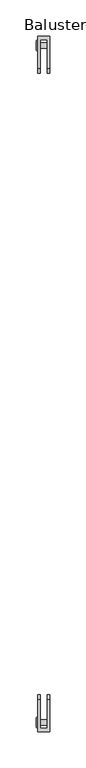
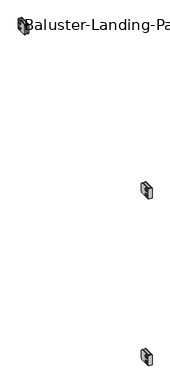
"""IFC4 building model written with IfcOpenShell, lengths in millimetres: railing geometry, Baluster-Landing-Panel-VIVA-BEACON-Upper : Standard_Glass."""

from ifc_helpers import new_model, si_unit, point, frame, origin, place, context, project, spatial, polyline, circle_curve, ellipse_curve, trimmed, outline, extrude, source, transform, mapped, element, save
from ifc_brep_helpers import plane_surface, cylinder_surface, revolved_surface, advanced_brep


def baluster_landing_panel_viva_beacon_upper_standard_glass_f7c4560a(model_context):
    return source(origin(), model_context, "Body", "SolidModel", [
        extrude(outline(polyline([(-922.7337279, 970.111725), (-920.6867638, 973.6571709), (-916.5928355, 973.6571709), (-914.5458713, 970.111725), (-916.5928355, 966.5662791), (-920.6867638, 966.5662791), (-922.7337279, 970.111725)])), frame((26.0686477, 0.0, 0.0), z_axis=(1.0, 0.0, 0.0), x_axis=(0.0, 1.0, 0.0)), (0.0, 0.0, 1.0), 1.4969696),
        advanced_brep(
        [(41.1327292, -922.1852455, 970.111725), (28.4327292, -922.1852455, 970.111725), (28.4327292, -915.0943537, 970.111725), (41.1327292, -915.0943537, 970.111725), (28.4327292, -926.0475887, 970.111725), (28.4327292, -911.2320105, 970.111725), (27.5656173, -920.295875, 970.111725), (41.1327292, -920.295875, 970.111725), (41.1327292, -916.9837242, 970.111725), (27.5656173, -916.9837242, 970.111725), (27.5978844, -926.0475887, 970.111725), (26.3166123, -924.7663167, 970.111725), (26.3166123, -912.5132826, 970.111725), (27.5978844, -911.2320105, 970.111725), (26.3166123, -922.9383952, 970.111725), (26.3166123, -914.3412041, 970.111725), (27.5656173, -922.9383952, 970.111725), (27.5656173, -914.3412041, 970.111725)],
        [
            (0, 1),
            (1, 2, circle_curve(frame((28.4327292, -918.6397996, 970.111725), z_axis=(1.0, 0.0, 0.0), x_axis=(0.0, 1.0, 0.0)), 3.5454459)),
            (2, 3),
            (3, 0, circle_curve(frame((41.1327292, -918.6397996, 970.111725), z_axis=(-1.0, 0.0, 0.0), x_axis=(0.0, 1.0, 0.0)), 3.5454459)),
            (2, 1, circle_curve(frame((28.4327292, -918.6397996, 970.111725), z_axis=(1.0, 0.0, 0.0), x_axis=(0.0, 1.0, 0.0)), 3.5454459)),
            (0, 3, circle_curve(frame((41.1327292, -918.6397996, 970.111725), z_axis=(-1.0, 0.0, 0.0), x_axis=(0.0, 1.0, 0.0)), 3.5454459)),
            (1, 4),
            (4, 5, circle_curve(frame((28.4327292, -918.6397996, 970.111725), z_axis=(1.0, 0.0, 0.0), x_axis=(0.0, 1.0, 0.0)), 7.4077891)),
            (5, 2),
            (5, 4, circle_curve(frame((28.4327292, -918.6397996, 970.111725), z_axis=(1.0, 0.0, 0.0), x_axis=(0.0, 1.0, 0.0)), 7.4077891)),
            (6, 7),
            (7, 8, circle_curve(frame((41.1327292, -918.6397996, 970.111725), z_axis=(1.0, 0.0, 0.0), x_axis=(0.0, 1.0, 0.0)), 1.6560754)),
            (8, 9),
            (9, 6, circle_curve(frame((27.5656173, -918.6397996, 970.111725), z_axis=(-1.0, 0.0, 0.0), x_axis=(0.0, 1.0, 0.0)), 1.6560754)),
            (8, 7, circle_curve(frame((41.1327292, -918.6397996, 970.111725), z_axis=(1.0, 0.0, 0.0), x_axis=(0.0, 1.0, 0.0)), 1.6560754)),
            (6, 9, circle_curve(frame((27.5656173, -918.6397996, 970.111725), z_axis=(-1.0, 0.0, 0.0), x_axis=(0.0, 1.0, 0.0)), 1.6560754)),
            (10, 11, circle_curve(frame((27.5978844, -924.7663167, 970.111725), z_axis=(0.0, 0.0, -1.0), x_axis=(0.0, -1.0, 0.0)), 1.281272)),
            (11, 12, circle_curve(frame((26.3166123, -918.6397996, 970.111725), z_axis=(1.0, 0.0, 0.0), x_axis=(0.0, 1.0, 0.0)), 6.1265171)),
            (12, 13, circle_curve(frame((27.5978844, -912.5132826, 970.111725), z_axis=(0.0, 0.0, -1.0), x_axis=(0.0, 1.0, 0.0)), 1.281272)),
            (13, 10, circle_curve(frame((27.5978844, -918.6397996, 970.111725), z_axis=(-1.0, 0.0, 0.0), x_axis=(0.0, 1.0, 0.0)), 7.4077891)),
            (12, 11, circle_curve(frame((26.3166123, -918.6397996, 970.111725), z_axis=(1.0, 0.0, 0.0), x_axis=(0.0, 1.0, 0.0)), 6.1265171)),
            (10, 13, circle_curve(frame((27.5978844, -918.6397996, 970.111725), z_axis=(-1.0, 0.0, 0.0), x_axis=(0.0, 1.0, 0.0)), 7.4077891)),
            (11, 14),
            (14, 15, circle_curve(frame((26.3166123, -918.6397996, 970.111725), z_axis=(1.0, 0.0, 0.0), x_axis=(0.0, 1.0, 0.0)), 4.2985955)),
            (15, 12),
            (15, 14, circle_curve(frame((26.3166123, -918.6397996, 970.111725), z_axis=(1.0, 0.0, 0.0), x_axis=(0.0, 1.0, 0.0)), 4.2985955)),
            (4, 10),
            (13, 5),
            (7, 0),
            (3, 8),
            (14, 16),
            (16, 17, circle_curve(frame((27.5656173, -918.6397996, 970.111725), z_axis=(1.0, 0.0, 0.0), x_axis=(0.0, 1.0, 0.0)), 4.2985955)),
            (17, 15),
            (17, 16, circle_curve(frame((27.5656173, -918.6397996, 970.111725), z_axis=(1.0, 0.0, 0.0), x_axis=(0.0, 1.0, 0.0)), 4.2985955)),
            (16, 6),
            (9, 17),
        ],
        [
            cylinder_surface(frame((31.9294623, -918.6397996, 970.111725), z_axis=(1.0, 0.0, 0.0), x_axis=(0.0, 1.0, 0.0)), 3.5454459),
            plane_surface(frame((28.4327292, -918.6397996, 970.111725), z_axis=(1.0, 0.0, 0.0), x_axis=(0.0, 1.0, 0.0))),
            revolved_surface(polyline([(41.1327292, -916.9837242, 970.111725), (27.5656173, -916.9837242, 970.111725)]), (31.9294623, -918.6397996, 970.111725), (1.0, 0.0, 0.0)),
            revolved_surface(trimmed(ellipse_curve(frame((27.5978844, -912.5132826, 970.111725), z_axis=(0.0, 0.0, -1.0), x_axis=(0.0, 1.0, 0.0)), 1.281272, 1.281272), [point((26.3166123, -912.5132826, 970.111725))], [point((27.5978844, -911.2320105, 970.111725))], True, "CARTESIAN"), (31.9294623, -918.6397996, 970.111725), (1.0, 0.0, 0.0)),
            plane_surface(frame((26.3166123, -918.6397996, 970.111725), z_axis=(-1.0, 0.0, 0.0), x_axis=(0.0, 1.0, 0.0))),
            cylinder_surface(frame((31.9294623, -918.6397996, 970.111725), z_axis=(1.0, 0.0, 0.0), x_axis=(0.0, 1.0, 0.0)), 7.4077891),
            plane_surface(frame((41.1327292, -918.6397996, 970.111725), z_axis=(1.0, 0.0, 0.0), x_axis=(0.0, 1.0, 0.0))),
            revolved_surface(polyline([(27.5656173, -914.3412040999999, 970.111725), (26.3166123, -914.3412040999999, 970.111725)]), (31.9294623, -918.6397996, 970.111725), (1.0, 0.0, 0.0)),
            plane_surface(frame((27.5656173, -918.6397996, 970.111725), z_axis=(-1.0, 0.0, 0.0), x_axis=(0.0, 1.0, 0.0))),
        ],
        [
            (0, [[1, 2, 3, 4]]),
            (0, [[-3, 5, -1, 6]]),
            (1, [[7, 8, 9, -2]]),
            (1, [[-9, 10, -7, -5]]),
            (2, [[11, 12, 13, 14]]),
            (2, [[-13, 15, -11, 16]]),
            (3, [[17, 18, 19, 20]]),
            (3, [[-19, 21, -17, 22]]),
            (4, [[23, 24, 25, -18]]),
            (4, [[-25, 26, -23, -21]]),
            (5, [[27, -20, 28, -8]]),
            (5, [[-28, -22, -27, -10]]),
            (6, [[29, -4, 30, -12]]),
            (6, [[-30, -6, -29, -15]]),
            (7, [[31, 32, 33, -24]]),
            (7, [[-33, 34, -31, -26]]),
            (8, [[35, -14, 36, -32]]),
            (8, [[-36, -16, -35, -34]]),
        ],
    ),
        advanced_brep(
        [(41.1327292, -922.1852455, 945.505475), (28.4327292, -922.1852455, 945.505475), (28.4327292, -915.0943537, 945.505475), (41.1327292, -915.0943537, 945.505475), (28.4327292, -926.0475887, 945.505475), (28.4327292, -911.2320105, 945.505475), (27.5656173, -920.295875, 945.505475), (41.1327292, -920.295875, 945.505475), (41.1327292, -916.9837242, 945.505475), (27.5656173, -916.9837242, 945.505475), (27.5978844, -926.0475887, 945.505475), (26.3166123, -924.7663167, 945.505475), (26.3166123, -912.5132826, 945.505475), (27.5978844, -911.2320105, 945.505475), (26.3166123, -922.9383952, 945.505475), (26.3166123, -914.3412041, 945.505475), (27.5656173, -922.9383952, 945.505475), (27.5656173, -914.3412041, 945.505475)],
        [
            (0, 1),
            (1, 2, circle_curve(frame((28.4327292, -918.6397996, 945.505475), z_axis=(1.0, 0.0, 0.0), x_axis=(0.0, 1.0, 0.0)), 3.5454459)),
            (2, 3),
            (3, 0, circle_curve(frame((41.1327292, -918.6397996, 945.505475), z_axis=(-1.0, 0.0, 0.0), x_axis=(0.0, 1.0, 0.0)), 3.5454459)),
            (2, 1, circle_curve(frame((28.4327292, -918.6397996, 945.505475), z_axis=(1.0, 0.0, 0.0), x_axis=(0.0, 1.0, 0.0)), 3.5454459)),
            (0, 3, circle_curve(frame((41.1327292, -918.6397996, 945.505475), z_axis=(-1.0, 0.0, 0.0), x_axis=(0.0, 1.0, 0.0)), 3.5454459)),
            (1, 4),
            (4, 5, circle_curve(frame((28.4327292, -918.6397996, 945.505475), z_axis=(1.0, 0.0, 0.0), x_axis=(0.0, 1.0, 0.0)), 7.4077891)),
            (5, 2),
            (5, 4, circle_curve(frame((28.4327292, -918.6397996, 945.505475), z_axis=(1.0, 0.0, 0.0), x_axis=(0.0, 1.0, 0.0)), 7.4077891)),
            (6, 7),
            (7, 8, circle_curve(frame((41.1327292, -918.6397996, 945.505475), z_axis=(1.0, 0.0, 0.0), x_axis=(0.0, 1.0, 0.0)), 1.6560754)),
            (8, 9),
            (9, 6, circle_curve(frame((27.5656173, -918.6397996, 945.505475), z_axis=(-1.0, 0.0, 0.0), x_axis=(0.0, 1.0, 0.0)), 1.6560754)),
            (8, 7, circle_curve(frame((41.1327292, -918.6397996, 945.505475), z_axis=(1.0, 0.0, 0.0), x_axis=(0.0, 1.0, 0.0)), 1.6560754)),
            (6, 9, circle_curve(frame((27.5656173, -918.6397996, 945.505475), z_axis=(-1.0, 0.0, 0.0), x_axis=(0.0, 1.0, 0.0)), 1.6560754)),
            (10, 11, circle_curve(frame((27.5978844, -924.7663167, 945.505475), z_axis=(0.0, 0.0, -1.0), x_axis=(0.0, -1.0, 0.0)), 1.281272)),
            (11, 12, circle_curve(frame((26.3166123, -918.6397996, 945.505475), z_axis=(1.0, 0.0, 0.0), x_axis=(0.0, 1.0, 0.0)), 6.1265171)),
            (12, 13, circle_curve(frame((27.5978844, -912.5132826, 945.505475), z_axis=(0.0, 0.0, -1.0), x_axis=(0.0, 1.0, 0.0)), 1.281272)),
            (13, 10, circle_curve(frame((27.5978844, -918.6397996, 945.505475), z_axis=(-1.0, 0.0, 0.0), x_axis=(0.0, 1.0, 0.0)), 7.4077891)),
            (12, 11, circle_curve(frame((26.3166123, -918.6397996, 945.505475), z_axis=(1.0, 0.0, 0.0), x_axis=(0.0, 1.0, 0.0)), 6.1265171)),
            (10, 13, circle_curve(frame((27.5978844, -918.6397996, 945.505475), z_axis=(-1.0, 0.0, 0.0), x_axis=(0.0, 1.0, 0.0)), 7.4077891)),
            (11, 14),
            (14, 15, circle_curve(frame((26.3166123, -918.6397996, 945.505475), z_axis=(1.0, 0.0, 0.0), x_axis=(0.0, 1.0, 0.0)), 4.2985955)),
            (15, 12),
            (15, 14, circle_curve(frame((26.3166123, -918.6397996, 945.505475), z_axis=(1.0, 0.0, 0.0), x_axis=(0.0, 1.0, 0.0)), 4.2985955)),
            (7, 0),
            (3, 8),
            (4, 10),
            (13, 5),
            (14, 16),
            (16, 17, circle_curve(frame((27.5656173, -918.6397996, 945.505475), z_axis=(1.0, 0.0, 0.0), x_axis=(0.0, 1.0, 0.0)), 4.2985955)),
            (17, 15),
            (17, 16, circle_curve(frame((27.5656173, -918.6397996, 945.505475), z_axis=(1.0, 0.0, 0.0), x_axis=(0.0, 1.0, 0.0)), 4.2985955)),
            (16, 6),
            (9, 17),
        ],
        [
            cylinder_surface(frame((31.9294623, -918.6397996, 945.505475), z_axis=(1.0, 0.0, 0.0), x_axis=(0.0, 1.0, 0.0)), 3.5454459),
            plane_surface(frame((28.4327292, -918.6397996, 945.505475), z_axis=(1.0, 0.0, 0.0), x_axis=(0.0, 1.0, 0.0))),
            revolved_surface(polyline([(41.1327292, -916.9837242, 945.505475), (27.5656173, -916.9837242, 945.505475)]), (31.9294623, -918.6397996, 945.505475), (1.0, 0.0, 0.0)),
            revolved_surface(trimmed(ellipse_curve(frame((27.5978844, -912.5132826, 945.505475), z_axis=(0.0, 0.0, -1.0), x_axis=(0.0, 1.0, 0.0)), 1.281272, 1.281272), [point((26.3166123, -912.5132826, 945.505475))], [point((27.5978844, -911.2320105, 945.505475))], True, "CARTESIAN"), (31.9294623, -918.6397996, 945.505475), (1.0, 0.0, 0.0)),
            plane_surface(frame((26.3166123, -918.6397996, 945.505475), z_axis=(-1.0, 0.0, 0.0), x_axis=(0.0, 1.0, 0.0))),
            plane_surface(frame((41.1327292, -918.6397996, 945.505475), z_axis=(1.0, 0.0, 0.0), x_axis=(0.0, 1.0, 0.0))),
            cylinder_surface(frame((31.9294623, -918.6397996, 945.505475), z_axis=(1.0, 0.0, 0.0), x_axis=(0.0, 1.0, 0.0)), 7.4077891),
            revolved_surface(polyline([(27.5656173, -914.3412040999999, 945.505475), (26.3166123, -914.3412040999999, 945.505475)]), (31.9294623, -918.6397996, 945.505475), (1.0, 0.0, 0.0)),
            plane_surface(frame((27.5656173, -918.6397996, 945.505475), z_axis=(-1.0, 0.0, 0.0), x_axis=(0.0, 1.0, 0.0))),
        ],
        [
            (0, [[1, 2, 3, 4]]),
            (0, [[-3, 5, -1, 6]]),
            (1, [[7, 8, 9, -2]]),
            (1, [[-9, 10, -7, -5]]),
            (2, [[11, 12, 13, 14]]),
            (2, [[-13, 15, -11, 16]]),
            (3, [[17, 18, 19, 20]]),
            (3, [[-19, 21, -17, 22]]),
            (4, [[23, 24, 25, -18]]),
            (4, [[-25, 26, -23, -21]]),
            (5, [[27, -4, 28, -12]]),
            (5, [[-28, -6, -27, -15]]),
            (6, [[29, -20, 30, -8]]),
            (6, [[-30, -22, -29, -10]]),
            (7, [[31, 32, 33, -24]]),
            (7, [[-33, 34, -31, -26]]),
            (8, [[35, -14, 36, -32]]),
            (8, [[-36, -16, -35, -34]]),
        ],
    ),
        extrude(outline(polyline([(-922.7337279, 945.505475), (-920.6867638, 949.0509209), (-916.5928355, 949.0509209), (-914.5458713, 945.505475), (-916.5928355, 941.9600291), (-920.6867638, 941.9600291), (-922.7337279, 945.505475)])), frame((26.0686477, 0.0, 0.0), z_axis=(1.0, 0.0, 0.0), x_axis=(0.0, 1.0, 0.0)), (0.0, 0.0, 1.0), 1.4969696),
        advanced_brep(
        [(28.4327292, -931.2731444, 980.0336), (28.4327292, -886.8231444, 980.0336), (28.4327292, -880.4731444, 973.6836), (28.4327292, -880.4731444, 941.9336), (28.4327292, -886.8231444, 935.5836), (28.4327292, -931.2731444, 935.5836), (44.3077292, -931.2731444, 980.0336), (44.3077292, -931.2731444, 935.5836), (44.3077292, -886.8231444, 935.5836), (44.3077292, -880.4731444, 941.9336), (44.3077292, -880.4731444, 973.6836), (44.3077292, -886.8231444, 980.0336), (31.6077292, -886.8231444, 935.5836), (31.6077292, -926.555064, 935.5836), (41.1327292, -926.555064, 935.5836), (41.1327292, -886.8231444, 935.5836), (31.6077292, -926.555064, 980.0336), (41.1327292, -926.555064, 980.0336), (31.6077292, -880.4731444, 941.9336), (31.6077292, -880.4731444, 973.6836), (31.6077292, -886.8231444, 980.0336), (41.1327292, -886.8231444, 980.0336), (41.1327292, -880.4731444, 973.6836), (41.1327292, -880.4731444, 941.9336)],
        [
            (0, 1),
            (1, 2, circle_curve(frame((28.4327292, -886.8231444, 973.6836), z_axis=(-1.0, 0.0, 0.0), x_axis=(0.0, 1.0, 0.0)), 6.35)),
            (2, 3),
            (3, 4, circle_curve(frame((28.4327292, -886.8231444, 941.9336), z_axis=(-1.0, 0.0, 0.0), x_axis=(0.0, 1.0, 0.0)), 6.35)),
            (4, 5),
            (5, 0),
            (6, 7),
            (7, 8),
            (8, 9, circle_curve(frame((44.3077292, -886.8231444, 941.9336), z_axis=(1.0, 0.0, 0.0), x_axis=(0.0, 1.0, 0.0)), 6.35)),
            (9, 10),
            (10, 11, circle_curve(frame((44.3077292, -886.8231444, 973.6836), z_axis=(1.0, 0.0, 0.0), x_axis=(0.0, 1.0, 0.0)), 6.35)),
            (11, 6),
            (5, 7),
            (6, 0),
            (4, 12),
            (12, 13),
            (13, 14),
            (14, 15),
            (15, 8),
            (13, 16),
            (16, 17),
            (17, 14),
            (12, 18, circle_curve(frame((31.6077292, -886.8231444, 941.9336), z_axis=(1.0, 0.0, 0.0), x_axis=(0.0, 1.0, 0.0)), 6.35)),
            (18, 19),
            (19, 20, circle_curve(frame((31.6077292, -886.8231444, 973.6836), z_axis=(1.0, 0.0, 0.0), x_axis=(0.0, 1.0, 0.0)), 6.35)),
            (20, 16),
            (17, 21),
            (21, 22, circle_curve(frame((41.1327292, -886.8231444, 973.6836), z_axis=(-1.0, 0.0, 0.0), x_axis=(0.0, 1.0, 0.0)), 6.35)),
            (22, 23),
            (23, 15, circle_curve(frame((41.1327292, -886.8231444, 941.9336), z_axis=(-1.0, 0.0, 0.0), x_axis=(0.0, 1.0, 0.0)), 6.35)),
            (23, 9),
            (3, 18),
            (22, 10),
            (2, 19),
            (21, 11),
            (1, 20),
        ],
        [
            plane_surface(frame((28.4327292, -931.2731444, 935.5836), z_axis=(-1.0, 0.0, 0.0), x_axis=(0.0, 0.0, -1.0))),
            plane_surface(frame((44.3077292, -931.2731444, 935.5836), z_axis=(1.0, 0.0, 0.0), x_axis=(0.0, 0.0, 1.0))),
            plane_surface(frame((28.4327292, -931.2731444, 980.0336), z_axis=(0.0, -1.0, 0.0), x_axis=(1.0, 0.0, 0.0))),
            plane_surface(frame((28.4327292, -931.2731444, 935.5836), z_axis=(0.0, 0.0, -1.0), x_axis=(1.0, 0.0, 0.0))),
            plane_surface(frame((41.1327292, -926.555064, 992.7336), z_axis=(0.0, 1.0, 0.0), x_axis=(0.0, 0.0, -1.0))),
            plane_surface(frame((31.6077292, -926.555064, 992.7336), z_axis=(1.0, 0.0, 0.0), x_axis=(0.0, 0.0, -1.0))),
            plane_surface(frame((41.1327292, -867.7731444, 992.7336), z_axis=(-1.0, 0.0, 0.0), x_axis=(0.0, 0.0, -1.0))),
            cylinder_surface(frame((44.3077292, -886.8231444, 941.9336), z_axis=(-1.0, 0.0, 0.0), x_axis=(0.0, 1.0, 0.0)), 6.35),
            plane_surface(frame((28.4327292, -880.4731444, 941.9336), z_axis=(0.0, 1.0, 0.0), x_axis=(1.0, 0.0, 0.0))),
            cylinder_surface(frame((44.3077292, -886.8231444, 973.6836), z_axis=(-1.0, 0.0, 0.0), x_axis=(0.0, 1.0, 0.0)), 6.35),
            plane_surface(frame((28.4327292, -886.8231444, 980.0336), z_axis=(0.0, 0.0, 1.0), x_axis=(1.0, 0.0, 0.0))),
        ],
        [
            (0, [[1, 2, 3, 4, 5, 6]]),
            (1, [[7, 8, 9, 10, 11, 12]]),
            (2, [[13, -7, 14, -6]]),
            (3, [[15, 16, 17, 18, 19, -8, -13, -5]]),
            (4, [[-17, 20, 21, 22]]),
            (5, [[-16, 23, 24, 25, 26, -20]]),
            (6, [[27, 28, 29, 30, -18, -22]]),
            (7, [[-19, -30, 31, -9]]),
            (7, [[32, -23, -15, -4]]),
            (8, [[-31, -29, 33, -10]]),
            (8, [[34, -24, -32, -3]]),
            (9, [[-33, -28, 35, -11]]),
            (9, [[36, -25, -34, -2]]),
            (10, [[-14, -12, -35, -27, -21, -26, -36, -1]]),
        ],
    ),
        extrude(outline(polyline([(-922.7337279, 220.73255), (-920.6867638, 224.2779959), (-916.5928355, 224.2779959), (-914.5458713, 220.73255), (-916.5928355, 217.1871041), (-920.6867638, 217.1871041), (-922.7337279, 220.73255)])), frame((26.0686477, 0.0, 0.0), z_axis=(1.0, 0.0, 0.0), x_axis=(0.0, 1.0, 0.0)), (0.0, 0.0, 1.0), 1.4969696),
        advanced_brep(
        [(41.1327292, -922.1852455, 220.73255), (28.4327292, -922.1852455, 220.73255), (28.4327292, -915.0943537, 220.73255), (41.1327292, -915.0943537, 220.73255), (28.4327292, -926.0475887, 220.73255), (28.4327292, -911.2320105, 220.73255), (27.5656173, -920.295875, 220.73255), (41.1327292, -920.295875, 220.73255), (41.1327292, -916.9837242, 220.73255), (27.5656173, -916.9837242, 220.73255), (27.5978844, -926.0475887, 220.73255), (26.3166123, -924.7663167, 220.73255), (26.3166123, -912.5132826, 220.73255), (27.5978844, -911.2320105, 220.73255), (26.3166123, -922.9383952, 220.73255), (26.3166123, -914.3412041, 220.73255), (27.5656173, -922.9383952, 220.73255), (27.5656173, -914.3412041, 220.73255)],
        [
            (0, 1),
            (1, 2, circle_curve(frame((28.4327292, -918.6397996, 220.73255), z_axis=(1.0, 0.0, 0.0), x_axis=(0.0, 1.0, 0.0)), 3.5454459)),
            (2, 3),
            (3, 0, circle_curve(frame((41.1327292, -918.6397996, 220.73255), z_axis=(-1.0, 0.0, 0.0), x_axis=(0.0, 1.0, 0.0)), 3.5454459)),
            (2, 1, circle_curve(frame((28.4327292, -918.6397996, 220.73255), z_axis=(1.0, 0.0, 0.0), x_axis=(0.0, 1.0, 0.0)), 3.5454459)),
            (0, 3, circle_curve(frame((41.1327292, -918.6397996, 220.73255), z_axis=(-1.0, 0.0, 0.0), x_axis=(0.0, 1.0, 0.0)), 3.5454459)),
            (1, 4),
            (4, 5, circle_curve(frame((28.4327292, -918.6397996, 220.73255), z_axis=(1.0, 0.0, 0.0), x_axis=(0.0, 1.0, 0.0)), 7.4077891)),
            (5, 2),
            (5, 4, circle_curve(frame((28.4327292, -918.6397996, 220.73255), z_axis=(1.0, 0.0, 0.0), x_axis=(0.0, 1.0, 0.0)), 7.4077891)),
            (6, 7),
            (7, 8, circle_curve(frame((41.1327292, -918.6397996, 220.73255), z_axis=(1.0, 0.0, 0.0), x_axis=(0.0, 1.0, 0.0)), 1.6560754)),
            (8, 9),
            (9, 6, circle_curve(frame((27.5656173, -918.6397996, 220.73255), z_axis=(-1.0, 0.0, 0.0), x_axis=(0.0, 1.0, 0.0)), 1.6560754)),
            (8, 7, circle_curve(frame((41.1327292, -918.6397996, 220.73255), z_axis=(1.0, 0.0, 0.0), x_axis=(0.0, 1.0, 0.0)), 1.6560754)),
            (6, 9, circle_curve(frame((27.5656173, -918.6397996, 220.73255), z_axis=(-1.0, 0.0, 0.0), x_axis=(0.0, 1.0, 0.0)), 1.6560754)),
            (10, 11, circle_curve(frame((27.5978844, -924.7663167, 220.73255), z_axis=(0.0, 0.0, -1.0), x_axis=(0.0, -1.0, 0.0)), 1.281272)),
            (11, 12, circle_curve(frame((26.3166123, -918.6397996, 220.73255), z_axis=(1.0, 0.0, 0.0), x_axis=(0.0, 1.0, 0.0)), 6.1265171)),
            (12, 13, circle_curve(frame((27.5978844, -912.5132826, 220.73255), z_axis=(0.0, 0.0, -1.0), x_axis=(0.0, 1.0, 0.0)), 1.281272)),
            (13, 10, circle_curve(frame((27.5978844, -918.6397996, 220.73255), z_axis=(-1.0, 0.0, 0.0), x_axis=(0.0, 1.0, 0.0)), 7.4077891)),
            (12, 11, circle_curve(frame((26.3166123, -918.6397996, 220.73255), z_axis=(1.0, 0.0, 0.0), x_axis=(0.0, 1.0, 0.0)), 6.1265171)),
            (10, 13, circle_curve(frame((27.5978844, -918.6397996, 220.73255), z_axis=(-1.0, 0.0, 0.0), x_axis=(0.0, 1.0, 0.0)), 7.4077891)),
            (11, 14),
            (14, 15, circle_curve(frame((26.3166123, -918.6397996, 220.73255), z_axis=(1.0, 0.0, 0.0), x_axis=(0.0, 1.0, 0.0)), 4.2985955)),
            (15, 12),
            (15, 14, circle_curve(frame((26.3166123, -918.6397996, 220.73255), z_axis=(1.0, 0.0, 0.0), x_axis=(0.0, 1.0, 0.0)), 4.2985955)),
            (4, 10),
            (13, 5),
            (7, 0),
            (3, 8),
            (14, 16),
            (16, 17, circle_curve(frame((27.5656173, -918.6397996, 220.73255), z_axis=(1.0, 0.0, 0.0), x_axis=(0.0, 1.0, 0.0)), 4.2985955)),
            (17, 15),
            (17, 16, circle_curve(frame((27.5656173, -918.6397996, 220.73255), z_axis=(1.0, 0.0, 0.0), x_axis=(0.0, 1.0, 0.0)), 4.2985955)),
            (16, 6),
            (9, 17),
        ],
        [
            cylinder_surface(frame((31.9294623, -918.6397996, 220.73255), z_axis=(1.0, 0.0, 0.0), x_axis=(0.0, 1.0, 0.0)), 3.5454459),
            plane_surface(frame((28.4327292, -918.6397996, 220.73255), z_axis=(1.0, 0.0, 0.0), x_axis=(0.0, 1.0, 0.0))),
            revolved_surface(polyline([(41.1327292, -916.9837242, 220.73255), (27.5656173, -916.9837242, 220.73255)]), (31.9294623, -918.6397996, 220.73255), (1.0, 0.0, 0.0)),
            revolved_surface(trimmed(ellipse_curve(frame((27.5978844, -912.5132826, 220.73255), z_axis=(0.0, 0.0, -1.0), x_axis=(0.0, 1.0, 0.0)), 1.281272, 1.281272), [point((26.3166123, -912.5132826, 220.73255))], [point((27.5978844, -911.2320105, 220.73255))], True, "CARTESIAN"), (31.9294623, -918.6397996, 220.73255), (1.0, 0.0, 0.0)),
            plane_surface(frame((26.3166123, -918.6397996, 220.73255), z_axis=(-1.0, 0.0, 0.0), x_axis=(0.0, 1.0, 0.0))),
            cylinder_surface(frame((31.9294623, -918.6397996, 220.73255), z_axis=(1.0, 0.0, 0.0), x_axis=(0.0, 1.0, 0.0)), 7.4077891),
            plane_surface(frame((41.1327292, -918.6397996, 220.73255), z_axis=(1.0, 0.0, 0.0), x_axis=(0.0, 1.0, 0.0))),
            revolved_surface(polyline([(27.5656173, -914.3412040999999, 220.73255), (26.3166123, -914.3412040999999, 220.73255)]), (31.9294623, -918.6397996, 220.73255), (1.0, 0.0, 0.0)),
            plane_surface(frame((27.5656173, -918.6397996, 220.73255), z_axis=(-1.0, 0.0, 0.0), x_axis=(0.0, 1.0, 0.0))),
        ],
        [
            (0, [[1, 2, 3, 4]]),
            (0, [[-3, 5, -1, 6]]),
            (1, [[7, 8, 9, -2]]),
            (1, [[-9, 10, -7, -5]]),
            (2, [[11, 12, 13, 14]]),
            (2, [[-13, 15, -11, 16]]),
            (3, [[17, 18, 19, 20]]),
            (3, [[-19, 21, -17, 22]]),
            (4, [[23, 24, 25, -18]]),
            (4, [[-25, 26, -23, -21]]),
            (5, [[27, -20, 28, -8]]),
            (5, [[-28, -22, -27, -10]]),
            (6, [[29, -4, 30, -12]]),
            (6, [[-30, -6, -29, -15]]),
            (7, [[31, 32, 33, -24]]),
            (7, [[-33, 34, -31, -26]]),
            (8, [[35, -14, 36, -32]]),
            (8, [[-36, -16, -35, -34]]),
        ],
    ),
        advanced_brep(
        [(41.1327292, -922.1852455, 196.1263), (28.4327292, -922.1852455, 196.1263), (28.4327292, -915.0943537, 196.1263), (41.1327292, -915.0943537, 196.1263), (28.4327292, -926.0475887, 196.1263), (28.4327292, -911.2320105, 196.1263), (27.5656173, -920.295875, 196.1263), (41.1327292, -920.295875, 196.1263), (41.1327292, -916.9837242, 196.1263), (27.5656173, -916.9837242, 196.1263), (27.5978844, -926.0475887, 196.1263), (26.3166123, -924.7663167, 196.1263), (26.3166123, -912.5132826, 196.1263), (27.5978844, -911.2320105, 196.1263), (26.3166123, -922.9383952, 196.1263), (26.3166123, -914.3412041, 196.1263), (27.5656173, -922.9383952, 196.1263), (27.5656173, -914.3412041, 196.1263)],
        [
            (0, 1),
            (1, 2, circle_curve(frame((28.4327292, -918.6397996, 196.1263), z_axis=(1.0, 0.0, 0.0), x_axis=(0.0, 1.0, 0.0)), 3.5454459)),
            (2, 3),
            (3, 0, circle_curve(frame((41.1327292, -918.6397996, 196.1263), z_axis=(-1.0, 0.0, 0.0), x_axis=(0.0, 1.0, 0.0)), 3.5454459)),
            (2, 1, circle_curve(frame((28.4327292, -918.6397996, 196.1263), z_axis=(1.0, 0.0, 0.0), x_axis=(0.0, 1.0, 0.0)), 3.5454459)),
            (0, 3, circle_curve(frame((41.1327292, -918.6397996, 196.1263), z_axis=(-1.0, 0.0, 0.0), x_axis=(0.0, 1.0, 0.0)), 3.5454459)),
            (1, 4),
            (4, 5, circle_curve(frame((28.4327292, -918.6397996, 196.1263), z_axis=(1.0, 0.0, 0.0), x_axis=(0.0, 1.0, 0.0)), 7.4077891)),
            (5, 2),
            (5, 4, circle_curve(frame((28.4327292, -918.6397996, 196.1263), z_axis=(1.0, 0.0, 0.0), x_axis=(0.0, 1.0, 0.0)), 7.4077891)),
            (6, 7),
            (7, 8, circle_curve(frame((41.1327292, -918.6397996, 196.1263), z_axis=(1.0, 0.0, 0.0), x_axis=(0.0, 1.0, 0.0)), 1.6560754)),
            (8, 9),
            (9, 6, circle_curve(frame((27.5656173, -918.6397996, 196.1263), z_axis=(-1.0, 0.0, 0.0), x_axis=(0.0, 1.0, 0.0)), 1.6560754)),
            (8, 7, circle_curve(frame((41.1327292, -918.6397996, 196.1263), z_axis=(1.0, 0.0, 0.0), x_axis=(0.0, 1.0, 0.0)), 1.6560754)),
            (6, 9, circle_curve(frame((27.5656173, -918.6397996, 196.1263), z_axis=(-1.0, 0.0, 0.0), x_axis=(0.0, 1.0, 0.0)), 1.6560754)),
            (10, 11, circle_curve(frame((27.5978844, -924.7663167, 196.1263), z_axis=(0.0, 0.0, -1.0), x_axis=(0.0, -1.0, 0.0)), 1.281272)),
            (11, 12, circle_curve(frame((26.3166123, -918.6397996, 196.1263), z_axis=(1.0, 0.0, 0.0), x_axis=(0.0, 1.0, 0.0)), 6.1265171)),
            (12, 13, circle_curve(frame((27.5978844, -912.5132826, 196.1263), z_axis=(0.0, 0.0, -1.0), x_axis=(0.0, 1.0, 0.0)), 1.281272)),
            (13, 10, circle_curve(frame((27.5978844, -918.6397996, 196.1263), z_axis=(-1.0, 0.0, 0.0), x_axis=(0.0, 1.0, 0.0)), 7.4077891)),
            (12, 11, circle_curve(frame((26.3166123, -918.6397996, 196.1263), z_axis=(1.0, 0.0, 0.0), x_axis=(0.0, 1.0, 0.0)), 6.1265171)),
            (10, 13, circle_curve(frame((27.5978844, -918.6397996, 196.1263), z_axis=(-1.0, 0.0, 0.0), x_axis=(0.0, 1.0, 0.0)), 7.4077891)),
            (11, 14),
            (14, 15, circle_curve(frame((26.3166123, -918.6397996, 196.1263), z_axis=(1.0, 0.0, 0.0), x_axis=(0.0, 1.0, 0.0)), 4.2985955)),
            (15, 12),
            (15, 14, circle_curve(frame((26.3166123, -918.6397996, 196.1263), z_axis=(1.0, 0.0, 0.0), x_axis=(0.0, 1.0, 0.0)), 4.2985955)),
            (7, 0),
            (3, 8),
            (4, 10),
            (13, 5),
            (14, 16),
            (16, 17, circle_curve(frame((27.5656173, -918.6397996, 196.1263), z_axis=(1.0, 0.0, 0.0), x_axis=(0.0, 1.0, 0.0)), 4.2985955)),
            (17, 15),
            (17, 16, circle_curve(frame((27.5656173, -918.6397996, 196.1263), z_axis=(1.0, 0.0, 0.0), x_axis=(0.0, 1.0, 0.0)), 4.2985955)),
            (16, 6),
            (9, 17),
        ],
        [
            cylinder_surface(frame((31.9294623, -918.6397996, 196.1263), z_axis=(1.0, 0.0, 0.0), x_axis=(0.0, 1.0, 0.0)), 3.5454459),
            plane_surface(frame((28.4327292, -918.6397996, 196.1263), z_axis=(1.0, 0.0, 0.0), x_axis=(0.0, 1.0, 0.0))),
            revolved_surface(polyline([(41.1327292, -916.9837242, 196.1263), (27.5656173, -916.9837242, 196.1263)]), (31.9294623, -918.6397996, 196.1263), (1.0, 0.0, 0.0)),
            revolved_surface(trimmed(ellipse_curve(frame((27.5978844, -912.5132826, 196.1263), z_axis=(0.0, 0.0, -1.0), x_axis=(0.0, 1.0, 0.0)), 1.281272, 1.281272), [point((26.3166123, -912.5132826, 196.1263))], [point((27.5978844, -911.2320105, 196.1263))], True, "CARTESIAN"), (31.9294623, -918.6397996, 196.1263), (1.0, 0.0, 0.0)),
            plane_surface(frame((26.3166123, -918.6397996, 196.1263), z_axis=(-1.0, 0.0, 0.0), x_axis=(0.0, 1.0, 0.0))),
            plane_surface(frame((41.1327292, -918.6397996, 196.1263), z_axis=(1.0, 0.0, 0.0), x_axis=(0.0, 1.0, 0.0))),
            cylinder_surface(frame((31.9294623, -918.6397996, 196.1263), z_axis=(1.0, 0.0, 0.0), x_axis=(0.0, 1.0, 0.0)), 7.4077891),
            revolved_surface(polyline([(27.5656173, -914.3412040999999, 196.1263), (26.3166123, -914.3412040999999, 196.1263)]), (31.9294623, -918.6397996, 196.1263), (1.0, 0.0, 0.0)),
            plane_surface(frame((27.5656173, -918.6397996, 196.1263), z_axis=(-1.0, 0.0, 0.0), x_axis=(0.0, 1.0, 0.0))),
        ],
        [
            (0, [[1, 2, 3, 4]]),
            (0, [[-3, 5, -1, 6]]),
            (1, [[7, 8, 9, -2]]),
            (1, [[-9, 10, -7, -5]]),
            (2, [[11, 12, 13, 14]]),
            (2, [[-13, 15, -11, 16]]),
            (3, [[17, 18, 19, 20]]),
            (3, [[-19, 21, -17, 22]]),
            (4, [[23, 24, 25, -18]]),
            (4, [[-25, 26, -23, -21]]),
            (5, [[27, -4, 28, -12]]),
            (5, [[-28, -6, -27, -15]]),
            (6, [[29, -20, 30, -8]]),
            (6, [[-30, -22, -29, -10]]),
            (7, [[31, 32, 33, -24]]),
            (7, [[-33, 34, -31, -26]]),
            (8, [[35, -14, 36, -32]]),
            (8, [[-36, -16, -35, -34]]),
        ],
    ),
        extrude(outline(polyline([(-922.7337279, 196.1263), (-920.6867638, 199.6717459), (-916.5928355, 199.6717459), (-914.5458713, 196.1263), (-916.5928355, 192.5808541), (-920.6867638, 192.5808541), (-922.7337279, 196.1263)])), frame((26.0686477, 0.0, 0.0), z_axis=(1.0, 0.0, 0.0), x_axis=(0.0, 1.0, 0.0)), (0.0, 0.0, 1.0), 1.4969696),
        advanced_brep(
        [(28.4327292, -931.2731444, 230.654425), (28.4327292, -886.8231444, 230.654425), (28.4327292, -880.4731444, 224.304425), (28.4327292, -880.4731444, 192.554425), (28.4327292, -886.8231444, 186.204425), (28.4327292, -931.2731444, 186.204425), (44.3077292, -931.2731444, 230.654425), (44.3077292, -931.2731444, 186.204425), (44.3077292, -886.8231444, 186.204425), (44.3077292, -880.4731444, 192.554425), (44.3077292, -880.4731444, 224.304425), (44.3077292, -886.8231444, 230.654425), (31.6077292, -886.8231444, 186.204425), (31.6077292, -926.555064, 186.204425), (41.1327292, -926.555064, 186.204425), (41.1327292, -886.8231444, 186.204425), (31.6077292, -926.555064, 230.654425), (41.1327292, -926.555064, 230.654425), (31.6077292, -880.4731444, 192.554425), (31.6077292, -880.4731444, 224.304425), (31.6077292, -886.8231444, 230.654425), (41.1327292, -886.8231444, 230.654425), (41.1327292, -880.4731444, 224.304425), (41.1327292, -880.4731444, 192.554425)],
        [
            (0, 1),
            (1, 2, circle_curve(frame((28.4327292, -886.8231444, 224.304425), z_axis=(-1.0, 0.0, 0.0), x_axis=(0.0, 1.0, 0.0)), 6.35)),
            (2, 3),
            (3, 4, circle_curve(frame((28.4327292, -886.8231444, 192.554425), z_axis=(-1.0, 0.0, 0.0), x_axis=(0.0, 1.0, 0.0)), 6.35)),
            (4, 5),
            (5, 0),
            (6, 7),
            (7, 8),
            (8, 9, circle_curve(frame((44.3077292, -886.8231444, 192.554425), z_axis=(1.0, 0.0, 0.0), x_axis=(0.0, 1.0, 0.0)), 6.35)),
            (9, 10),
            (10, 11, circle_curve(frame((44.3077292, -886.8231444, 224.304425), z_axis=(1.0, 0.0, 0.0), x_axis=(0.0, 1.0, 0.0)), 6.35)),
            (11, 6),
            (5, 7),
            (6, 0),
            (4, 12),
            (12, 13),
            (13, 14),
            (14, 15),
            (15, 8),
            (13, 16),
            (16, 17),
            (17, 14),
            (12, 18, circle_curve(frame((31.6077292, -886.8231444, 192.554425), z_axis=(1.0, 0.0, 0.0), x_axis=(0.0, 1.0, 0.0)), 6.35)),
            (18, 19),
            (19, 20, circle_curve(frame((31.6077292, -886.8231444, 224.304425), z_axis=(1.0, 0.0, 0.0), x_axis=(0.0, 1.0, 0.0)), 6.35)),
            (20, 16),
            (17, 21),
            (21, 22, circle_curve(frame((41.1327292, -886.8231444, 224.304425), z_axis=(-1.0, 0.0, 0.0), x_axis=(0.0, 1.0, 0.0)), 6.35)),
            (22, 23),
            (23, 15, circle_curve(frame((41.1327292, -886.8231444, 192.554425), z_axis=(-1.0, 0.0, 0.0), x_axis=(0.0, 1.0, 0.0)), 6.35)),
            (23, 9),
            (3, 18),
            (22, 10),
            (2, 19),
            (21, 11),
            (1, 20),
        ],
        [
            plane_surface(frame((28.4327292, -931.2731444, 186.204425), z_axis=(-1.0, 0.0, 0.0), x_axis=(0.0, 0.0, -1.0))),
            plane_surface(frame((44.3077292, -931.2731444, 186.204425), z_axis=(1.0, 0.0, 0.0), x_axis=(0.0, 0.0, 1.0))),
            plane_surface(frame((28.4327292, -931.2731444, 230.654425), z_axis=(0.0, -1.0, 0.0), x_axis=(1.0, 0.0, 0.0))),
            plane_surface(frame((28.4327292, -931.2731444, 186.204425), z_axis=(0.0, 0.0, -1.0), x_axis=(1.0, 0.0, 0.0))),
            plane_surface(frame((41.1327292, -926.555064, 243.354425), z_axis=(0.0, 1.0, 0.0), x_axis=(0.0, 0.0, -1.0))),
            plane_surface(frame((31.6077292, -926.555064, 243.354425), z_axis=(1.0, 0.0, 0.0), x_axis=(0.0, 0.0, -1.0))),
            plane_surface(frame((41.1327292, -867.7731444, 243.354425), z_axis=(-1.0, 0.0, 0.0), x_axis=(0.0, 0.0, -1.0))),
            cylinder_surface(frame((44.3077292, -886.8231444, 192.554425), z_axis=(-1.0, 0.0, 0.0), x_axis=(0.0, 1.0, 0.0)), 6.35),
            plane_surface(frame((28.4327292, -880.4731444, 192.554425), z_axis=(0.0, 1.0, 0.0), x_axis=(1.0, 0.0, 0.0))),
            cylinder_surface(frame((44.3077292, -886.8231444, 224.304425), z_axis=(-1.0, 0.0, 0.0), x_axis=(0.0, 1.0, 0.0)), 6.35),
            plane_surface(frame((28.4327292, -886.8231444, 230.654425), z_axis=(0.0, 0.0, 1.0), x_axis=(1.0, 0.0, 0.0))),
        ],
        [
            (0, [[1, 2, 3, 4, 5, 6]]),
            (1, [[7, 8, 9, 10, 11, 12]]),
            (2, [[13, -7, 14, -6]]),
            (3, [[15, 16, 17, 18, 19, -8, -13, -5]]),
            (4, [[-17, 20, 21, 22]]),
            (5, [[-16, 23, 24, 25, 26, -20]]),
            (6, [[27, 28, 29, 30, -18, -22]]),
            (7, [[-19, -30, 31, -9]]),
            (7, [[32, -23, -15, -4]]),
            (8, [[-31, -29, 33, -10]]),
            (8, [[34, -24, -32, -3]]),
            (9, [[-33, -28, 35, -11]]),
            (9, [[36, -25, -34, -2]]),
            (10, [[-14, -12, -35, -27, -21, -26, -36, -1]]),
        ],
    ),
        extrude(outline(polyline([(18.4480835, 1154.8641267), (16.4011194, 1151.3186808), (12.3071911, 1151.3186808), (10.2602269, 1154.8641267), (12.3071911, 1158.4095726), (16.4011194, 1158.4095726), (18.4480835, 1154.8641267)])), frame((26.0686477, 0.0, 0.0), z_axis=(1.0, 0.0, 0.0), x_axis=(0.0, 1.0, 0.0)), (0.0, 0.0, 1.0), 1.4969696),
        advanced_brep(
        [(41.1327292, 17.8996011, 1154.8641267), (41.1327292, 10.8087093, 1154.8641267), (28.4327292, 10.8087093, 1154.8641267), (28.4327292, 17.8996011, 1154.8641267), (28.4327292, 6.9463661, 1154.8641267), (28.4327292, 21.7619443, 1154.8641267), (27.5656173, 16.0102306, 1154.8641267), (27.5656173, 12.6980798, 1154.8641267), (41.1327292, 12.6980798, 1154.8641267), (41.1327292, 16.0102306, 1154.8641267), (27.5978844, 21.7619443, 1154.8641267), (27.5978844, 6.9463661, 1154.8641267), (26.3166123, 8.2276382, 1154.8641267), (26.3166123, 20.4806723, 1154.8641267), (26.3166123, 10.0555597, 1154.8641267), (26.3166123, 18.6527508, 1154.8641267), (27.5656173, 10.0555597, 1154.8641267), (27.5656173, 18.6527508, 1154.8641267)],
        [
            (0, 1, circle_curve(frame((41.1327292, 14.3541552, 1154.8641267), z_axis=(-1.0, 0.0, 0.0), x_axis=(0.0, -1.0, 0.0)), 3.5454459)),
            (1, 2),
            (2, 3, circle_curve(frame((28.4327292, 14.3541552, 1154.8641267), z_axis=(1.0, 0.0, 0.0), x_axis=(0.0, -1.0, 0.0)), 3.5454459)),
            (3, 0),
            (1, 0, circle_curve(frame((41.1327292, 14.3541552, 1154.8641267), z_axis=(-1.0, 0.0, 0.0), x_axis=(0.0, -1.0, 0.0)), 3.5454459)),
            (3, 2, circle_curve(frame((28.4327292, 14.3541552, 1154.8641267), z_axis=(1.0, 0.0, 0.0), x_axis=(0.0, -1.0, 0.0)), 3.5454459)),
            (2, 4),
            (4, 5, circle_curve(frame((28.4327292, 14.3541552, 1154.8641267), z_axis=(1.0, 0.0, 0.0), x_axis=(0.0, -1.0, 0.0)), 7.4077891)),
            (5, 3),
            (5, 4, circle_curve(frame((28.4327292, 14.3541552, 1154.8641267), z_axis=(1.0, 0.0, 0.0), x_axis=(0.0, -1.0, 0.0)), 7.4077891)),
            (6, 7, circle_curve(frame((27.5656173, 14.3541552, 1154.8641267), z_axis=(-1.0, 0.0, 0.0), x_axis=(0.0, -1.0, 0.0)), 1.6560754)),
            (7, 8),
            (8, 9, circle_curve(frame((41.1327292, 14.3541552, 1154.8641267), z_axis=(1.0, 0.0, 0.0), x_axis=(0.0, -1.0, 0.0)), 1.6560754)),
            (9, 6),
            (7, 6, circle_curve(frame((27.5656173, 14.3541552, 1154.8641267), z_axis=(-1.0, 0.0, 0.0), x_axis=(0.0, -1.0, 0.0)), 1.6560754)),
            (9, 8, circle_curve(frame((41.1327292, 14.3541552, 1154.8641267), z_axis=(1.0, 0.0, 0.0), x_axis=(0.0, -1.0, 0.0)), 1.6560754)),
            (10, 11, circle_curve(frame((27.5978844, 14.3541552, 1154.8641267), z_axis=(-1.0, 0.0, 0.0), x_axis=(0.0, -1.0, 0.0)), 7.4077891)),
            (11, 12, circle_curve(frame((27.5978844, 8.2276382, 1154.8641267), z_axis=(0.0, 0.0, -1.0), x_axis=(0.0, -1.0, 0.0)), 1.281272)),
            (12, 13, circle_curve(frame((26.3166123, 14.3541552, 1154.8641267), z_axis=(1.0, 0.0, 0.0), x_axis=(0.0, -1.0, 0.0)), 6.1265171)),
            (13, 10, circle_curve(frame((27.5978844, 20.4806723, 1154.8641267), z_axis=(0.0, 0.0, -1.0), x_axis=(0.0, 1.0, 0.0)), 1.281272)),
            (11, 10, circle_curve(frame((27.5978844, 14.3541552, 1154.8641267), z_axis=(-1.0, 0.0, 0.0), x_axis=(0.0, -1.0, 0.0)), 7.4077891)),
            (13, 12, circle_curve(frame((26.3166123, 14.3541552, 1154.8641267), z_axis=(1.0, 0.0, 0.0), x_axis=(0.0, -1.0, 0.0)), 6.1265171)),
            (12, 14),
            (14, 15, circle_curve(frame((26.3166123, 14.3541552, 1154.8641267), z_axis=(1.0, 0.0, 0.0), x_axis=(0.0, -1.0, 0.0)), 4.2985955)),
            (15, 13),
            (15, 14, circle_curve(frame((26.3166123, 14.3541552, 1154.8641267), z_axis=(1.0, 0.0, 0.0), x_axis=(0.0, -1.0, 0.0)), 4.2985955)),
            (4, 11),
            (10, 5),
            (8, 1),
            (0, 9),
            (14, 16),
            (16, 17, circle_curve(frame((27.5656173, 14.3541552, 1154.8641267), z_axis=(1.0, 0.0, 0.0), x_axis=(0.0, -1.0, 0.0)), 4.2985955)),
            (17, 15),
            (17, 16, circle_curve(frame((27.5656173, 14.3541552, 1154.8641267), z_axis=(1.0, 0.0, 0.0), x_axis=(0.0, -1.0, 0.0)), 4.2985955)),
            (16, 7),
            (6, 17),
        ],
        [
            cylinder_surface(frame((31.9294623, 14.3541552, 1154.8641267), z_axis=(1.0, 0.0, 0.0), x_axis=(0.0, -1.0, 0.0)), 3.5454459),
            plane_surface(frame((28.4327292, 14.3541552, 1154.8641267), z_axis=(1.0, 0.0, 0.0), x_axis=(0.0, -1.0, 0.0))),
            revolved_surface(polyline([(41.1327292, 12.698079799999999, 1154.8641267), (27.5656173, 12.698079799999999, 1154.8641267)]), (31.9294623, 14.3541552, 1154.8641267), (1.0, 0.0, 0.0)),
            revolved_surface(trimmed(ellipse_curve(frame((27.5978844, 8.2276382, 1154.8641267), z_axis=(0.0, 0.0, 1.0), x_axis=(0.0, -1.0, 0.0)), 1.281272, 1.281272), [point((26.3166123, 8.2276382, 1154.8641267))], [point((27.5978844, 6.9463661, 1154.8641267))], True, "CARTESIAN"), (31.9294623, 14.3541552, 1154.8641267), (1.0, 0.0, 0.0)),
            plane_surface(frame((26.3166123, 14.3541552, 1154.8641267), z_axis=(-1.0, 0.0, 0.0), x_axis=(0.0, -1.0, 0.0))),
            cylinder_surface(frame((31.9294623, 14.3541552, 1154.8641267), z_axis=(1.0, 0.0, 0.0), x_axis=(0.0, -1.0, 0.0)), 7.4077891),
            plane_surface(frame((41.1327292, 14.3541552, 1154.8641267), z_axis=(1.0, 0.0, 0.0), x_axis=(0.0, -1.0, 0.0))),
            revolved_surface(polyline([(27.5656173, 10.0555597, 1154.8641267), (26.3166123, 10.0555597, 1154.8641267)]), (31.9294623, 14.3541552, 1154.8641267), (1.0, 0.0, 0.0)),
            plane_surface(frame((27.5656173, 14.3541552, 1154.8641267), z_axis=(-1.0, 0.0, 0.0), x_axis=(0.0, -1.0, 0.0))),
        ],
        [
            (0, [[1, 2, 3, 4]]),
            (0, [[5, -4, 6, -2]]),
            (1, [[-3, 7, 8, 9]]),
            (1, [[-6, -9, 10, -7]]),
            (2, [[11, 12, 13, 14]]),
            (2, [[15, -14, 16, -12]]),
            (3, [[17, 18, 19, 20]]),
            (3, [[21, -20, 22, -18]]),
            (4, [[-19, 23, 24, 25]]),
            (4, [[-22, -25, 26, -23]]),
            (5, [[-8, 27, -17, 28]]),
            (5, [[-10, -28, -21, -27]]),
            (6, [[-13, 29, -1, 30]]),
            (6, [[-16, -30, -5, -29]]),
            (7, [[-24, 31, 32, 33]]),
            (7, [[-26, -33, 34, -31]]),
            (8, [[-32, 35, -11, 36]]),
            (8, [[-34, -36, -15, -35]]),
        ],
    ),
        advanced_brep(
        [(41.1327292, 17.8996011, 1130.2578767), (41.1327292, 10.8087093, 1130.2578767), (28.4327292, 10.8087093, 1130.2578767), (28.4327292, 17.8996011, 1130.2578767), (28.4327292, 6.9463661, 1130.2578767), (28.4327292, 21.7619443, 1130.2578767), (27.5656173, 16.0102306, 1130.2578767), (27.5656173, 12.6980798, 1130.2578767), (41.1327292, 12.6980798, 1130.2578767), (41.1327292, 16.0102306, 1130.2578767), (27.5978844, 21.7619443, 1130.2578767), (27.5978844, 6.9463661, 1130.2578767), (26.3166123, 8.2276382, 1130.2578767), (26.3166123, 20.4806723, 1130.2578767), (26.3166123, 10.0555597, 1130.2578767), (26.3166123, 18.6527508, 1130.2578767), (27.5656173, 10.0555597, 1130.2578767), (27.5656173, 18.6527508, 1130.2578767)],
        [
            (0, 1, circle_curve(frame((41.1327292, 14.3541552, 1130.2578767), z_axis=(-1.0, 0.0, 0.0), x_axis=(0.0, -1.0, 0.0)), 3.5454459)),
            (1, 2),
            (2, 3, circle_curve(frame((28.4327292, 14.3541552, 1130.2578767), z_axis=(1.0, 0.0, 0.0), x_axis=(0.0, -1.0, 0.0)), 3.5454459)),
            (3, 0),
            (1, 0, circle_curve(frame((41.1327292, 14.3541552, 1130.2578767), z_axis=(-1.0, 0.0, 0.0), x_axis=(0.0, -1.0, 0.0)), 3.5454459)),
            (3, 2, circle_curve(frame((28.4327292, 14.3541552, 1130.2578767), z_axis=(1.0, 0.0, 0.0), x_axis=(0.0, -1.0, 0.0)), 3.5454459)),
            (2, 4),
            (4, 5, circle_curve(frame((28.4327292, 14.3541552, 1130.2578767), z_axis=(1.0, 0.0, 0.0), x_axis=(0.0, -1.0, 0.0)), 7.4077891)),
            (5, 3),
            (5, 4, circle_curve(frame((28.4327292, 14.3541552, 1130.2578767), z_axis=(1.0, 0.0, 0.0), x_axis=(0.0, -1.0, 0.0)), 7.4077891)),
            (6, 7, circle_curve(frame((27.5656173, 14.3541552, 1130.2578767), z_axis=(-1.0, 0.0, 0.0), x_axis=(0.0, -1.0, 0.0)), 1.6560754)),
            (7, 8),
            (8, 9, circle_curve(frame((41.1327292, 14.3541552, 1130.2578767), z_axis=(1.0, 0.0, 0.0), x_axis=(0.0, -1.0, 0.0)), 1.6560754)),
            (9, 6),
            (7, 6, circle_curve(frame((27.5656173, 14.3541552, 1130.2578767), z_axis=(-1.0, 0.0, 0.0), x_axis=(0.0, -1.0, 0.0)), 1.6560754)),
            (9, 8, circle_curve(frame((41.1327292, 14.3541552, 1130.2578767), z_axis=(1.0, 0.0, 0.0), x_axis=(0.0, -1.0, 0.0)), 1.6560754)),
            (10, 11, circle_curve(frame((27.5978844, 14.3541552, 1130.2578767), z_axis=(-1.0, 0.0, 0.0), x_axis=(0.0, -1.0, 0.0)), 7.4077891)),
            (11, 12, circle_curve(frame((27.5978844, 8.2276382, 1130.2578767), z_axis=(0.0, 0.0, -1.0), x_axis=(0.0, -1.0, 0.0)), 1.281272)),
            (12, 13, circle_curve(frame((26.3166123, 14.3541552, 1130.2578767), z_axis=(1.0, 0.0, 0.0), x_axis=(0.0, -1.0, 0.0)), 6.1265171)),
            (13, 10, circle_curve(frame((27.5978844, 20.4806723, 1130.2578767), z_axis=(0.0, 0.0, -1.0), x_axis=(0.0, 1.0, 0.0)), 1.281272)),
            (11, 10, circle_curve(frame((27.5978844, 14.3541552, 1130.2578767), z_axis=(-1.0, 0.0, 0.0), x_axis=(0.0, -1.0, 0.0)), 7.4077891)),
            (13, 12, circle_curve(frame((26.3166123, 14.3541552, 1130.2578767), z_axis=(1.0, 0.0, 0.0), x_axis=(0.0, -1.0, 0.0)), 6.1265171)),
            (12, 14),
            (14, 15, circle_curve(frame((26.3166123, 14.3541552, 1130.2578767), z_axis=(1.0, 0.0, 0.0), x_axis=(0.0, -1.0, 0.0)), 4.2985955)),
            (15, 13),
            (15, 14, circle_curve(frame((26.3166123, 14.3541552, 1130.2578767), z_axis=(1.0, 0.0, 0.0), x_axis=(0.0, -1.0, 0.0)), 4.2985955)),
            (8, 1),
            (0, 9),
            (4, 11),
            (10, 5),
            (14, 16),
            (16, 17, circle_curve(frame((27.5656173, 14.3541552, 1130.2578767), z_axis=(1.0, 0.0, 0.0), x_axis=(0.0, -1.0, 0.0)), 4.2985955)),
            (17, 15),
            (17, 16, circle_curve(frame((27.5656173, 14.3541552, 1130.2578767), z_axis=(1.0, 0.0, 0.0), x_axis=(0.0, -1.0, 0.0)), 4.2985955)),
            (16, 7),
            (6, 17),
        ],
        [
            cylinder_surface(frame((31.9294623, 14.3541552, 1130.2578767), z_axis=(1.0, 0.0, 0.0), x_axis=(0.0, -1.0, 0.0)), 3.5454459),
            plane_surface(frame((28.4327292, 14.3541552, 1130.2578767), z_axis=(1.0, 0.0, 0.0), x_axis=(0.0, -1.0, 0.0))),
            revolved_surface(polyline([(41.1327292, 12.698079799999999, 1130.2578767), (27.5656173, 12.698079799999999, 1130.2578767)]), (31.9294623, 14.3541552, 1130.2578767), (1.0, 0.0, 0.0)),
            revolved_surface(trimmed(ellipse_curve(frame((27.5978844, 8.2276382, 1130.2578767), z_axis=(0.0, 0.0, 1.0), x_axis=(0.0, -1.0, 0.0)), 1.281272, 1.281272), [point((26.3166123, 8.2276382, 1130.2578767))], [point((27.5978844, 6.9463661, 1130.2578767))], True, "CARTESIAN"), (31.9294623, 14.3541552, 1130.2578767), (1.0, 0.0, 0.0)),
            plane_surface(frame((26.3166123, 14.3541552, 1130.2578767), z_axis=(-1.0, 0.0, 0.0), x_axis=(0.0, -1.0, 0.0))),
            plane_surface(frame((41.1327292, 14.3541552, 1130.2578767), z_axis=(1.0, 0.0, 0.0), x_axis=(0.0, -1.0, 0.0))),
            cylinder_surface(frame((31.9294623, 14.3541552, 1130.2578767), z_axis=(1.0, 0.0, 0.0), x_axis=(0.0, -1.0, 0.0)), 7.4077891),
            revolved_surface(polyline([(27.5656173, 10.0555597, 1130.2578767), (26.3166123, 10.0555597, 1130.2578767)]), (31.9294623, 14.3541552, 1130.2578767), (1.0, 0.0, 0.0)),
            plane_surface(frame((27.5656173, 14.3541552, 1130.2578767), z_axis=(-1.0, 0.0, 0.0), x_axis=(0.0, -1.0, 0.0))),
        ],
        [
            (0, [[1, 2, 3, 4]]),
            (0, [[5, -4, 6, -2]]),
            (1, [[-3, 7, 8, 9]]),
            (1, [[-6, -9, 10, -7]]),
            (2, [[11, 12, 13, 14]]),
            (2, [[15, -14, 16, -12]]),
            (3, [[17, 18, 19, 20]]),
            (3, [[21, -20, 22, -18]]),
            (4, [[-19, 23, 24, 25]]),
            (4, [[-22, -25, 26, -23]]),
            (5, [[-13, 27, -1, 28]]),
            (5, [[-16, -28, -5, -27]]),
            (6, [[-8, 29, -17, 30]]),
            (6, [[-10, -30, -21, -29]]),
            (7, [[-24, 31, 32, 33]]),
            (7, [[-26, -33, 34, -31]]),
            (8, [[-32, 35, -11, 36]]),
            (8, [[-34, -36, -15, -35]]),
        ],
    ),
        extrude(outline(polyline([(18.4480835, 1130.2578767), (16.4011194, 1126.7124308), (12.3071911, 1126.7124308), (10.2602269, 1130.2578767), (12.3071911, 1133.8033226), (16.4011194, 1133.8033226), (18.4480835, 1130.2578767)])), frame((26.0686477, 0.0, 0.0), z_axis=(1.0, 0.0, 0.0), x_axis=(0.0, 1.0, 0.0)), (0.0, 0.0, 1.0), 1.4969696),
        advanced_brep(
        [(28.4327292, 26.9875, 1164.7860017), (28.4327292, 26.9875, 1120.3360017), (28.4327292, -17.4625, 1120.3360017), (28.4327292, -23.8125, 1126.6860017), (28.4327292, -23.8125, 1158.4360017), (28.4327292, -17.4625, 1164.7860017), (44.3077292, 26.9875, 1164.7860017), (44.3077292, -17.4625, 1164.7860017), (44.3077292, -23.8125, 1158.4360017), (44.3077292, -23.8125, 1126.6860017), (44.3077292, -17.4625, 1120.3360017), (44.3077292, 26.9875, 1120.3360017), (41.1327292, -17.4625, 1120.3360017), (41.1327292, 22.2694196, 1120.3360017), (31.6077292, 22.2694196, 1120.3360017), (31.6077292, -17.4625, 1120.3360017), (41.1327292, 22.2694196, 1164.7860017), (31.6077292, 22.2694196, 1164.7860017), (31.6077292, -17.4625, 1164.7860017), (31.6077292, -23.8125, 1158.4360017), (31.6077292, -23.8125, 1126.6860017), (41.1327292, -23.8125, 1126.6860017), (41.1327292, -23.8125, 1158.4360017), (41.1327292, -17.4625, 1164.7860017)],
        [
            (0, 1),
            (1, 2),
            (2, 3, circle_curve(frame((28.4327292, -17.4625, 1126.6860017), z_axis=(-1.0, 0.0, 0.0), x_axis=(0.0, -1.0, 0.0)), 6.35)),
            (3, 4),
            (4, 5, circle_curve(frame((28.4327292, -17.4625, 1158.4360017), z_axis=(-1.0, 0.0, 0.0), x_axis=(0.0, -1.0, 0.0)), 6.35)),
            (5, 0),
            (6, 7),
            (7, 8, circle_curve(frame((44.3077292, -17.4625, 1158.4360017), z_axis=(1.0, 0.0, 0.0), x_axis=(0.0, -1.0, 0.0)), 6.35)),
            (8, 9),
            (9, 10, circle_curve(frame((44.3077292, -17.4625, 1126.6860017), z_axis=(1.0, 0.0, 0.0), x_axis=(0.0, -1.0, 0.0)), 6.35)),
            (10, 11),
            (11, 6),
            (0, 6),
            (11, 1),
            (10, 12),
            (12, 13),
            (13, 14),
            (14, 15),
            (15, 2),
            (13, 16),
            (16, 17),
            (17, 14),
            (17, 18),
            (18, 19, circle_curve(frame((31.6077292, -17.4625, 1158.4360017), z_axis=(1.0, 0.0, 0.0), x_axis=(0.0, -1.0, 0.0)), 6.35)),
            (19, 20),
            (20, 15, circle_curve(frame((31.6077292, -17.4625, 1126.6860017), z_axis=(1.0, 0.0, 0.0), x_axis=(0.0, -1.0, 0.0)), 6.35)),
            (12, 21, circle_curve(frame((41.1327292, -17.4625, 1126.6860017), z_axis=(-1.0, 0.0, 0.0), x_axis=(0.0, -1.0, 0.0)), 6.35)),
            (21, 22),
            (22, 23, circle_curve(frame((41.1327292, -17.4625, 1158.4360017), z_axis=(-1.0, 0.0, 0.0), x_axis=(0.0, -1.0, 0.0)), 6.35)),
            (23, 16),
            (20, 3),
            (9, 21),
            (19, 4),
            (8, 22),
            (18, 5),
            (7, 23),
        ],
        [
            plane_surface(frame((28.4327292, 26.9875, 1120.3360017), z_axis=(-1.0, 0.0, 0.0), x_axis=(0.0, 0.0, -1.0))),
            plane_surface(frame((44.3077292, 26.9875, 1120.3360017), z_axis=(1.0, 0.0, 0.0), x_axis=(0.0, 0.0, 1.0))),
            plane_surface(frame((28.4327292, 26.9875, 1164.7860017), z_axis=(0.0, 1.0, 0.0), x_axis=(1.0, 0.0, 0.0))),
            plane_surface(frame((28.4327292, 26.9875, 1120.3360017), z_axis=(0.0, 0.0, -1.0), x_axis=(1.0, 0.0, 0.0))),
            plane_surface(frame((41.1327292, 22.2694196, 1177.4860017), z_axis=(0.0, -1.0, 0.0), x_axis=(0.0, 0.0, -1.0))),
            plane_surface(frame((31.6077292, 22.2694196, 1177.4860017), z_axis=(1.0, 0.0, 0.0), x_axis=(0.0, 0.0, -1.0))),
            plane_surface(frame((41.1327292, -36.5125, 1177.4860017), z_axis=(-1.0, 0.0, 0.0), x_axis=(0.0, 0.0, -1.0))),
            cylinder_surface(frame((44.3077292, -17.4625, 1126.6860017), z_axis=(-1.0, 0.0, 0.0), x_axis=(0.0, -1.0, 0.0)), 6.35),
            plane_surface(frame((28.4327292, -23.8125, 1126.6860017), z_axis=(0.0, -1.0, 0.0), x_axis=(1.0, 0.0, 0.0))),
            cylinder_surface(frame((44.3077292, -17.4625, 1158.4360017), z_axis=(-1.0, 0.0, 0.0), x_axis=(0.0, -1.0, 0.0)), 6.35),
            plane_surface(frame((28.4327292, -17.4625, 1164.7860017), z_axis=(0.0, 0.0, 1.0), x_axis=(1.0, 0.0, 0.0))),
        ],
        [
            (0, [[1, 2, 3, 4, 5, 6]]),
            (1, [[7, 8, 9, 10, 11, 12]]),
            (2, [[-1, 13, -12, 14]]),
            (3, [[-2, -14, -11, 15, 16, 17, 18, 19]]),
            (4, [[20, 21, 22, -17]]),
            (5, [[-22, 23, 24, 25, 26, -18]]),
            (6, [[-20, -16, 27, 28, 29, 30]]),
            (7, [[-3, -19, -26, 31]]),
            (7, [[-10, 32, -27, -15]]),
            (8, [[-4, -31, -25, 33]]),
            (8, [[-9, 34, -28, -32]]),
            (9, [[-5, -33, -24, 35]]),
            (9, [[-8, 36, -29, -34]]),
            (10, [[-6, -35, -23, -21, -30, -36, -7, -13]]),
        ],
    ),
    ])


if __name__ == "__main__":
    model = new_model("IFC4")
    model_context = context("Model", 3, world=origin())
    ifc_project = project(units=[si_unit("LENGTHUNIT", "METRE", prefix="MILLI")], contexts=[model_context])
    site = spatial("IfcSite", under=ifc_project)
    building = spatial("IfcBuilding", under=site)
    placement = place(None, origin())
    baluster_landing_panel_viva_beacon_upper_standard_glass_shape = baluster_landing_panel_viva_beacon_upper_standard_glass_f7c4560a(model_context)
    element("IfcRailing", 1, ObjectType="Baluster-Landing-Panel-VIVA-BEACON-Upper : Standard_Glass", at=placement, inside=building, context=model_context, shape_type="MappedRepresentation", body=[
        mapped(baluster_landing_panel_viva_beacon_upper_standard_glass_shape, transform((0.0, 0.0, 0.0), x_axis=(1.0, 0.0, 0.0), y_axis=(0.0, 1.0, 0.0), z_axis=(0.0, 0.0, 1.0))),
    ])
    save(model, "model.ifc")
